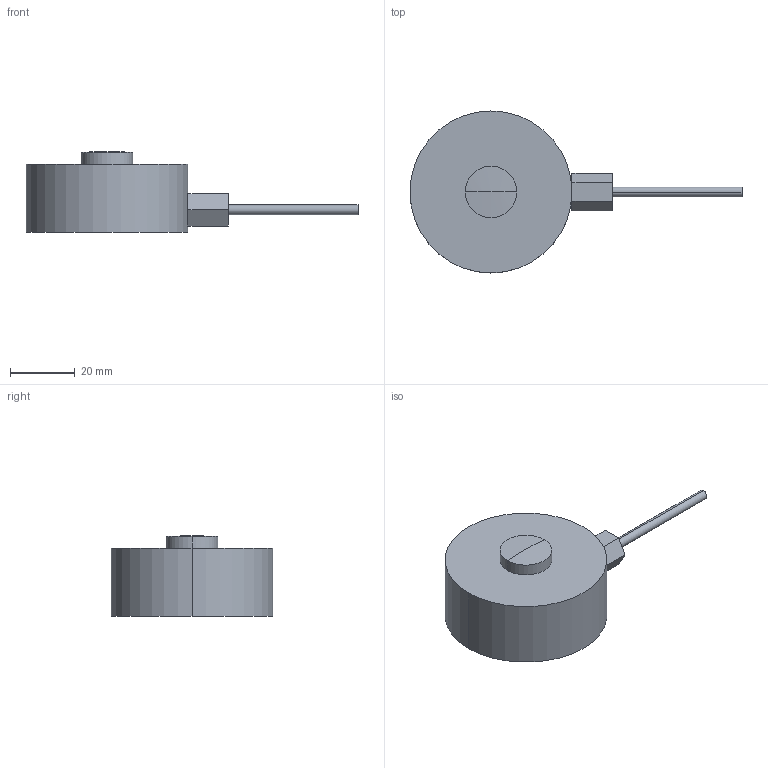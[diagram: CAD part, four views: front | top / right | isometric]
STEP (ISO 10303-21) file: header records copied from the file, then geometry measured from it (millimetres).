
FILE_DESCRIPTION (( 'STEP AP203' ), '1' );
FILE_NAME ('WY3.STEP', '2024-08-03T01:37:32', ( '' ), ( '' ), 'SwSTEP 2.0', 'SolidWorks 2023', '' );
FILE_SCHEMA (( 'CONFIG_CONTROL_DESIGN' ));
Length unit declared in the file: millimetre
Products named in the file (1): WY3
Bounding box: 102.5 x 50 x 25 mm (x, y, z)
Volume: 42904.1 mm3; surface area: 8825.6 mm2
Topology: 2 solids, 2 shells, 35 faces, 78 edges, 45 vertices
Faces by surface type: cylinder 14, plane 11, cone 8, sphere 2
Entity records: 989 total; most frequent: DIRECTION 172, CARTESIAN_POINT 151, ORIENTED_EDGE 140, EDGE_CURVE 70, AXIS2_PLACEMENT_3D 66, VERTEX_POINT 45, EDGE_LOOP 41, LINE 40
